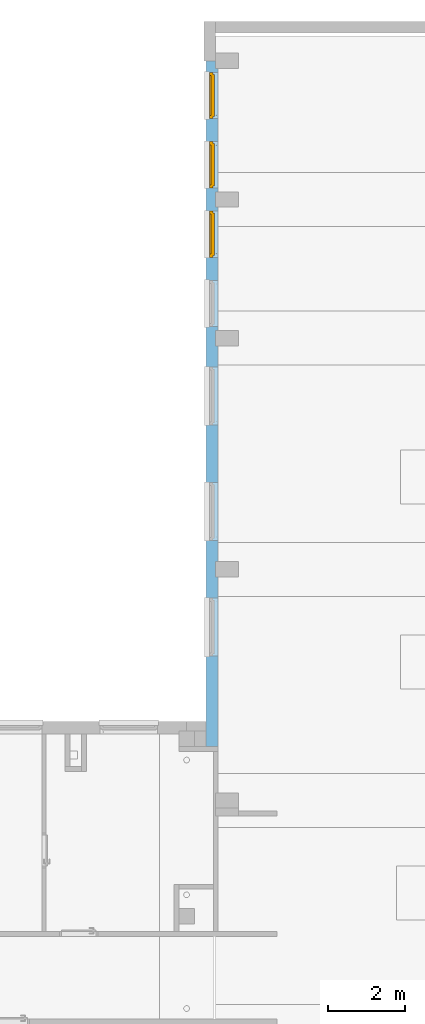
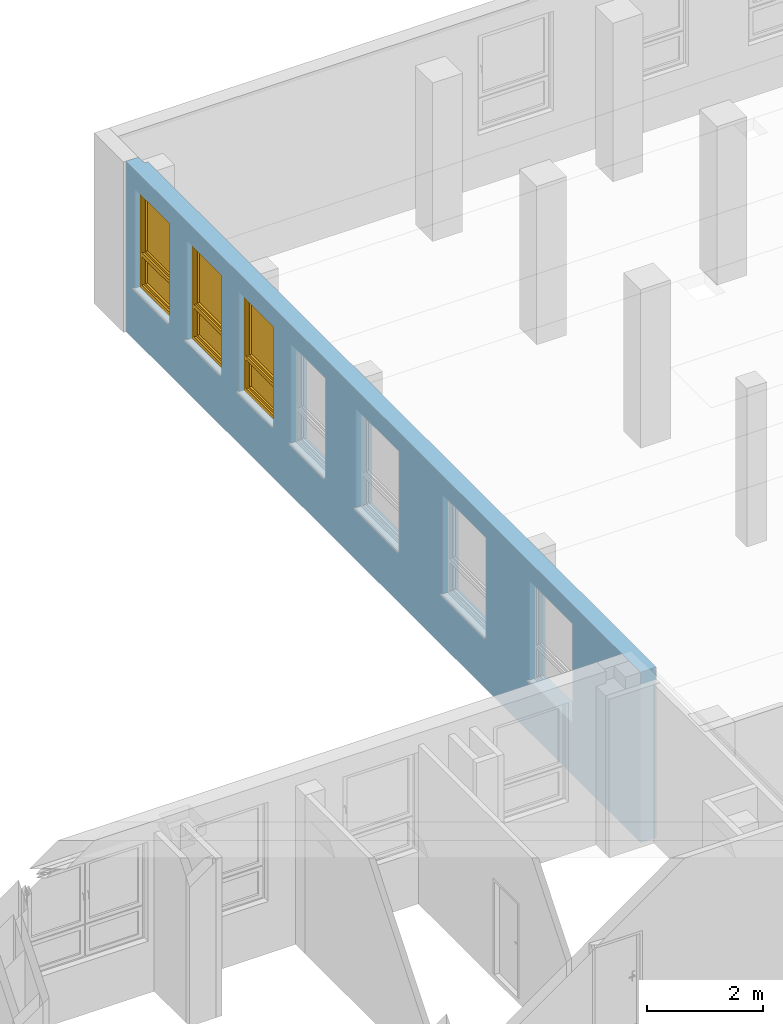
# One storey, part 27 of 50: 3 windows, 7 openings, plus 1 element that does not belong to this part.
"""IFC4 building model written with IfcOpenShell, lengths in metres."""

from ifc_helpers import new_model, entity, si_unit, converted_unit, derived_unit, frame, origin, origin_with_axes, place, context, subcontext, project, spatial, polyline, outline, extrude, clip, bounded_halfspace, closed_shell, open_shell, surface_model, source, transform, mapped, material, layer, layer_set, layer_usage, element, fill, save


model = new_model("IFC4")

# Units and contexts
model_context = context("Model", 3, precision=1e-05, world=origin())
body_context = subcontext(model_context, "Body", "Model", "MODEL_VIEW")
ifc_project = project(units=[si_unit("LENGTHUNIT", "METRE"), si_unit("AREAUNIT", "SQUARE_METRE"), si_unit("VOLUMEUNIT", "CUBIC_METRE"), si_unit("MASSUNIT", "GRAM", prefix="KILO"), converted_unit("PLANEANGLEUNIT", "DEGREE", entity("IfcPlaneAngleMeasure", 0.0174532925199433), si_unit("PLANEANGLEUNIT", "RADIAN"), dimensions=[0, 0, 0, 0, 0, 0, 0]), derived_unit("THERMALTRANSMITTANCEUNIT", [(si_unit("POWERUNIT", "WATT"), 1), (si_unit("THERMODYNAMICTEMPERATUREUNIT", "KELVIN"), -1), (si_unit("LENGTHUNIT", "METRE"), -2)]), derived_unit("VOLUMETRICFLOWRATEUNIT", [(si_unit("LENGTHUNIT", "METRE"), 3), (converted_unit("TIMEUNIT", "hour", entity("IfcTimeMeasure", 3600.0), si_unit("TIMEUNIT", "SECOND"), dimensions=[0, 0, 1, 0, 0, 0, 0]), -1), (si_unit("LENGTHUNIT", "METRE"), -1)])], contexts=[model_context])

# Site, building, storey
site_placement = place(None, origin())
site = spatial("IfcSite", under=ifc_project, at=site_placement, Name="3. ASŘ", CompositionType="ELEMENT")
building_placement = place(site_placement, origin())
building = spatial("IfcBuilding", under=site, at=building_placement, Name="Pavilon C", CompositionType="ELEMENT")
storey_placement = place(building_placement, frame((0.0, 0.0, 3.6)))
storey = spatial("IfcBuildingStorey", under=building, at=storey_placement, Name="Půdorys 2.NP", CompositionType="ELEMENT", Elevation=3.6)

# Wall, openings, windows
ifc_material = material(Name="ZELEZOBETONOVÁ KCE")
ifc_layer = layer(ifc_material, 0.32)
ifc_layer_set = layer_set([ifc_layer])
ifc_layer_usage = layer_usage(ifc_layer_set, "AXIS2", "POSITIVE", 0.0)
wall_placement = place(storey_placement, frame((24.5, 32.4, -0.1), z_axis=(0.0, 0.0, 1.0), x_axis=(-2.04380831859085e-16, -1.0, 0.0)))
wall = element("IfcWall", 1, at=wall_placement, inside=storey, material=ifc_layer_usage, Name="ZELEZOBETONOVÁ KCE", context=body_context, shape_type="Clipping", body=[
    clip(clip(clip(extrude(outline(polyline([(-17.8, 0.0), (0.0, 0.0), (-6.54018661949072e-17, 0.32), (-17.6, 0.32), (-17.6, 0.25), (-17.8, 0.25), (-17.8, 0.0)])), frame((17.8, 0.0, 0.0), z_axis=(0.0, 0.0, 1.0), x_axis=(1.0, 0.0, 0.0)), (0.0, 0.0, 1.0), 3.6), bounded_halfspace(frame((3.6, 0.285000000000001, 3.35), z_axis=(0.0, 0.0, 1.0), x_axis=(2.04380831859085e-16, -1.0, 0.0)), True, origin_with_axes(), polyline([(3.4, 0.320000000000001), (3.4, 0.250000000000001), (3.8, 0.250000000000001), (3.8, 0.320000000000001), (3.4, 0.320000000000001)]))), bounded_halfspace(frame((7.2, 0.285000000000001, 3.35), z_axis=(0.0, 0.0, 1.0), x_axis=(2.04380831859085e-16, -1.0, 0.0)), True, origin_with_axes(), polyline([(7.0, 0.320000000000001), (7.0, 0.250000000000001), (7.4, 0.250000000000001), (7.4, 0.320000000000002), (7.0, 0.320000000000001)]))), bounded_halfspace(frame((13.2, 0.285000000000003, 3.35), z_axis=(0.0, 0.0, 1.0), x_axis=(2.04380831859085e-16, -1.0, 0.0)), True, origin_with_axes(), polyline([(13.0, 0.320000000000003), (13.0, 0.250000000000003), (13.4, 0.250000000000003), (13.4, 0.320000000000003), (13.0, 0.320000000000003)]))),
])
opening_1_placement = place(wall_placement, frame((13.95, -7.86866202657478e-16, 1.1), z_axis=(0.0, 1.0, 0.0), x_axis=(0.0, 0.0, 1.0)))
element("IfcOpeningElement", 2, at=opening_1_placement, cuts=wall, Name="Okenní otvor", ObjectType="Opening", context=body_context, shape_type="SweptSolid", body=[
    extrude(outline(polyline([(0.0, 1.5), (2.1, 1.5), (2.1, 0.0), (0.0, 0.0), (0.0, 1.5)])), origin_with_axes(), (0.0, 0.0, 1.0), 0.32),
])
opening_2_placement = place(wall_placement, frame((10.95, -1.40000869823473e-15, 1.1), z_axis=(0.0, 1.0, 0.0), x_axis=(0.0, 0.0, 1.0)))
element("IfcOpeningElement", 3, at=opening_2_placement, cuts=wall, Name="Okenní otvor", ObjectType="Opening", context=body_context, shape_type="SweptSolid", body=[
    extrude(outline(polyline([(0.0, 1.5), (2.1, 1.5), (2.1, 0.0), (0.0, 0.0), (0.0, 1.5)])), origin_with_axes(), (0.0, 0.0, 1.0), 0.32),
])
opening_3_placement = place(wall_placement, frame((7.95, -2.01315119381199e-15, 1.1), z_axis=(0.0, 1.0, 0.0), x_axis=(0.0, 0.0, 1.0)))
element("IfcOpeningElement", 4, at=opening_3_placement, cuts=wall, Name="Okenní otvor", ObjectType="Opening", context=body_context, shape_type="SweptSolid", body=[
    extrude(outline(polyline([(0.0, 1.5), (2.1, 1.5), (2.1, 0.0), (0.0, 0.0), (0.0, 1.5)])), origin_with_axes(), (0.0, 0.0, 1.0), 0.320000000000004),
])
opening_4_placement = place(wall_placement, frame((5.7, 1.16497074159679e-15, 1.1), z_axis=(0.0, 1.0, 0.0), x_axis=(0.0, 0.0, 1.0)))
element("IfcOpeningElement", 5, at=opening_4_placement, cuts=wall, Name="Okenní otvor", ObjectType="Opening", context=body_context, shape_type="SweptSolid", body=[
    extrude(outline(polyline([(0.0, 1.2), (2.1, 1.2), (2.1, 0.0), (0.0, 0.0), (0.0, 1.2)])), origin_with_axes(), (0.0, 0.0, 1.0), 0.32),
])
opening_5_placement = place(wall_placement, frame((3.90000000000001, 7.97085244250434e-16, 1.1), z_axis=(0.0, 1.0, 0.0), x_axis=(0.0, 0.0, 1.0)))
opening_5 = element("IfcOpeningElement", 6, at=opening_5_placement, cuts=wall, Name="Okenní otvor", ObjectType="Opening", context=body_context, shape_type="SweptSolid", body=[
    extrude(outline(polyline([(0.0, 1.2), (2.1, 1.2), (2.1, 0.0), (0.0, 0.0), (0.0, 1.2)])), origin_with_axes(), (0.0, 0.0, 1.0), 0.32),
])
opening_6_placement = place(wall_placement, frame((2.10000000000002, 4.29199746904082e-16, 1.1), z_axis=(0.0, 1.0, 0.0), x_axis=(0.0, 0.0, 1.0)))
opening_6 = element("IfcOpeningElement", 7, at=opening_6_placement, cuts=wall, Name="Okenní otvor", ObjectType="Opening", context=body_context, shape_type="SweptSolid", body=[
    extrude(outline(polyline([(0.0, 1.2), (2.1, 1.2), (2.1, 0.0), (0.0, 0.0), (0.0, 1.2)])), origin_with_axes(), (0.0, 0.0, 1.0), 0.32),
])
opening_7_placement = place(wall_placement, frame((0.300000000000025, 6.13142495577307e-17, 1.1), z_axis=(-1.77635683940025e-16, 1.0, 0.0), x_axis=(0.0, 0.0, 1.0)))
opening_7 = element("IfcOpeningElement", 8, at=opening_7_placement, cuts=wall, Name="Okenní otvor", ObjectType="Opening", context=body_context, shape_type="SweptSolid", body=[
    extrude(outline(polyline([(0.0, 1.2), (2.1, 1.2), (2.1, 0.0), (0.0, 0.0), (0.0, 1.2)])), origin_with_axes(), (0.0, 0.0, 1.0), 0.32),
])
shared_shape_1 = source(origin_with_axes(), body_context, "Body", "SurfaceModel", [
    surface_model("IfcShellBasedSurfaceModel", [(0.0, 0.182, 2.1), (0.0, 0.182, -5.63337527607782e-18), (0.08, 0.182, -5.63337527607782e-18), (0.08, 0.182, 2.1), (0.0, 0.0899999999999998, 5.63337527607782e-18), (0.0, 0.0900000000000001, 2.1), (0.08, 0.0900000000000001, 2.1), (0.08, 0.0899999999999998, 5.63337527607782e-18)], [closed_shell([[[0, 1, 2, 3]], [[4, 5, 6, 7]], [[1, 0, 5, 4]], [[2, 1, 4, 7]], [[3, 2, 7, 6]], [[0, 3, 6, 5]]], orient=[[False], [False], [False], [False], [False], [False]])]),
    surface_model("IfcShellBasedSurfaceModel", [(1.12, 0.182, 2.1), (1.12, 0.182, -5.63337527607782e-18), (1.2, 0.182, -5.63337527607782e-18), (1.2, 0.182, 2.1), (1.12, 0.0899999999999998, 5.63337527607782e-18), (1.12, 0.0900000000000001, 2.1), (1.2, 0.0900000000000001, 2.1), (1.2, 0.0899999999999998, 5.63337527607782e-18)], [closed_shell([[[0, 1, 2, 3]], [[4, 5, 6, 7]], [[1, 0, 5, 4]], [[2, 1, 4, 7]], [[3, 2, 7, 6]], [[0, 3, 6, 5]]], orient=[[False], [False], [False], [False], [False], [False]])]),
    surface_model("IfcShellBasedSurfaceModel", [(0.08, 0.182, 0.08), (0.08, 0.182, -5.63337527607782e-18), (1.12, 0.182, -5.63337527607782e-18), (1.12, 0.182, 0.08), (0.08, 0.0899999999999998, 5.63337527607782e-18), (0.08, 0.0899999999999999, 0.08), (1.12, 0.0899999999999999, 0.08), (1.12, 0.0899999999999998, 5.63337527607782e-18)], [closed_shell([[[0, 1, 2, 3]], [[4, 5, 6, 7]], [[1, 0, 5, 4]], [[2, 1, 4, 7]], [[3, 2, 7, 6]], [[0, 3, 6, 5]]], orient=[[False], [False], [False], [False], [False], [False]])]),
    surface_model("IfcShellBasedSurfaceModel", [(0.08, 0.182, 2.1), (0.08, 0.182, 2.02), (1.12, 0.182, 2.02), (1.12, 0.182, 2.1), (0.08, 0.0900000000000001, 2.02), (0.08, 0.0900000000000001, 2.1), (1.12, 0.0900000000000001, 2.1), (1.12, 0.0900000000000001, 2.02)], [closed_shell([[[0, 1, 2, 3]], [[4, 5, 6, 7]], [[1, 0, 5, 4]], [[2, 1, 4, 7]], [[3, 2, 7, 6]], [[0, 3, 6, 5]]], orient=[[False], [False], [False], [False], [False], [False]])]),
    surface_model("IfcShellBasedSurfaceModel", [(0.08, 0.182, 0.76), (0.08, 0.182, 0.68), (1.12, 0.182, 0.68), (1.12, 0.182, 0.76), (0.08, 0.0899999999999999, 0.68), (0.08, 0.0899999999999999, 0.76), (1.12, 0.0899999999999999, 0.76), (1.12, 0.0899999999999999, 0.68)], [closed_shell([[[0, 1, 2, 3]], [[4, 5, 6, 7]], [[1, 0, 5, 4]], [[2, 1, 4, 7]], [[3, 2, 7, 6]], [[0, 3, 6, 5]]], orient=[[False], [False], [False], [False], [False], [False]])]),
    surface_model("IfcShellBasedSurfaceModel", [(0.05, 0.145, 0.71), (0.05, 0.145, 0.05), (0.13, 0.145, 0.05), (0.13, 0.145, 0.71), (0.05, 0.0599999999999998, 0.05), (0.05, 0.0599999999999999, 0.71), (0.13, 0.0599999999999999, 0.71), (0.13, 0.0599999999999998, 0.05)], [closed_shell([[[0, 1, 2, 3]], [[4, 5, 6, 7]], [[1, 0, 5, 4]], [[2, 1, 4, 7]], [[3, 2, 7, 6]], [[0, 3, 6, 5]]], orient=[[False], [False], [False], [False], [False], [False]])]),
    surface_model("IfcShellBasedSurfaceModel", [(1.07, 0.145, 0.71), (1.07, 0.145, 0.05), (1.15, 0.145, 0.05), (1.15, 0.145, 0.71), (1.07, 0.0599999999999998, 0.05), (1.07, 0.0599999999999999, 0.71), (1.15, 0.0599999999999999, 0.71), (1.15, 0.0599999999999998, 0.05)], [closed_shell([[[0, 1, 2, 3]], [[4, 5, 6, 7]], [[1, 0, 5, 4]], [[2, 1, 4, 7]], [[3, 2, 7, 6]], [[0, 3, 6, 5]]], orient=[[False], [False], [False], [False], [False], [False]])]),
    surface_model("IfcShellBasedSurfaceModel", [(0.13, 0.145, 0.13), (0.13, 0.145, 0.05), (1.07, 0.145, 0.05), (1.07, 0.145, 0.13), (0.13, 0.0599999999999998, 0.05), (0.13, 0.0599999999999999, 0.13), (1.07, 0.0599999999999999, 0.13), (1.07, 0.0599999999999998, 0.05)], [closed_shell([[[0, 1, 2, 3]], [[4, 5, 6, 7]], [[1, 0, 5, 4]], [[2, 1, 4, 7]], [[3, 2, 7, 6]], [[0, 3, 6, 5]]], orient=[[False], [False], [False], [False], [False], [False]])]),
    surface_model("IfcShellBasedSurfaceModel", [(0.13, 0.145, 0.71), (0.13, 0.145, 0.63), (1.07, 0.145, 0.63), (1.07, 0.145, 0.71), (0.13, 0.0599999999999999, 0.63), (0.13, 0.0599999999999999, 0.71), (1.07, 0.0599999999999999, 0.71), (1.07, 0.0599999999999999, 0.63)], [closed_shell([[[0, 1, 2, 3]], [[4, 5, 6, 7]], [[1, 0, 5, 4]], [[2, 1, 4, 7]], [[3, 2, 7, 6]], [[0, 3, 6, 5]]], orient=[[False], [False], [False], [False], [False], [False]])]),
    surface_model("IfcShellBasedSurfaceModel", [(0.05, 0.145, 2.05), (0.05, 0.145, 0.73), (0.13, 0.145, 0.73), (0.13, 0.145, 2.05), (0.05, 0.0599999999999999, 0.73), (0.05, 0.0600000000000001, 2.05), (0.13, 0.0600000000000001, 2.05), (0.13, 0.0599999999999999, 0.73)], [closed_shell([[[0, 1, 2, 3]], [[4, 5, 6, 7]], [[1, 0, 5, 4]], [[2, 1, 4, 7]], [[3, 2, 7, 6]], [[0, 3, 6, 5]]], orient=[[False], [False], [False], [False], [False], [False]])]),
    surface_model("IfcShellBasedSurfaceModel", [(1.07, 0.145, 2.05), (1.07, 0.145, 0.73), (1.15, 0.145, 0.73), (1.15, 0.145, 2.05), (1.07, 0.0599999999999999, 0.73), (1.07, 0.0600000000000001, 2.05), (1.15, 0.0600000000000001, 2.05), (1.15, 0.0599999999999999, 0.73)], [closed_shell([[[0, 1, 2, 3]], [[4, 5, 6, 7]], [[1, 0, 5, 4]], [[2, 1, 4, 7]], [[3, 2, 7, 6]], [[0, 3, 6, 5]]], orient=[[False], [False], [False], [False], [False], [False]])]),
    surface_model("IfcShellBasedSurfaceModel", [(0.13, 0.145, 0.81), (0.13, 0.145, 0.73), (1.07, 0.145, 0.73), (1.07, 0.145, 0.81), (0.13, 0.0599999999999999, 0.73), (0.13, 0.0599999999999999, 0.81), (1.07, 0.0599999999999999, 0.81), (1.07, 0.0599999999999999, 0.73)], [closed_shell([[[0, 1, 2, 3]], [[4, 5, 6, 7]], [[1, 0, 5, 4]], [[2, 1, 4, 7]], [[3, 2, 7, 6]], [[0, 3, 6, 5]]], orient=[[False], [False], [False], [False], [False], [False]])]),
    surface_model("IfcShellBasedSurfaceModel", [(0.13, 0.145, 2.05), (0.13, 0.145, 1.97), (1.07, 0.145, 1.97), (1.07, 0.145, 2.05), (0.13, 0.0600000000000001, 1.97), (0.13, 0.0600000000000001, 2.05), (1.07, 0.0600000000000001, 2.05), (1.07, 0.0600000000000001, 1.97)], [closed_shell([[[0, 1, 2, 3]], [[4, 5, 6, 7]], [[1, 0, 5, 4]], [[2, 1, 4, 7]], [[3, 2, 7, 6]], [[0, 3, 6, 5]]], orient=[[False], [False], [False], [False], [False], [False]])]),
    surface_model("IfcShellBasedSurfaceModel", [(0.0775, 0.06, 1.41), (0.0775, 0.06, 1.37), (0.1025, 0.06, 1.37), (0.1025, 0.06, 1.41), (0.0775, 0.05, 1.37), (0.0775, 0.05, 1.41), (0.1025, 0.05, 1.41), (0.1025, 0.05, 1.37)], [closed_shell([[[0, 1, 2, 3]], [[4, 5, 6, 7]], [[1, 0, 5, 4]], [[2, 1, 4, 7]], [[3, 2, 7, 6]], [[0, 3, 6, 5]]], orient=[[False], [False], [False], [False], [False], [False]])]),
    surface_model("IfcShellBasedSurfaceModel", [(0.1, 0.05, 1.39), (0.0986602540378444, 0.05, 1.395), (0.095, 0.05, 1.39866025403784), (0.09, 0.05, 1.4), (0.085, 0.05, 1.39866025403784), (0.0813397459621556, 0.05, 1.395), (0.08, 0.05, 1.39), (0.0813397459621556, 0.05, 1.385), (0.085, 0.05, 1.38133974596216), (0.09, 0.05, 1.38), (0.095, 0.05, 1.38133974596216), (0.0986602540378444, 0.05, 1.385), (0.1, 0.01, 1.39), (0.0986602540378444, 0.00500000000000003, 1.395), (0.095, 0.00133974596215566, 1.39866025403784), (0.09, 2.8421709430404e-17, 1.4), (0.085, 0.00133974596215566, 1.39866025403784), (0.0813397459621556, 0.00500000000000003, 1.395), (0.08, 0.01, 1.39), (0.0813397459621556, 0.015, 1.385), (0.085, 0.0186602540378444, 1.38133974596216), (0.09, 0.02, 1.38), (0.095, 0.0186602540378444, 1.38133974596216), (0.0986602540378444, 0.015, 1.385), (0.1, 0.01, 1.275), (0.0986602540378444, 0.005, 1.275), (0.095, 0.00133974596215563, 1.275), (0.09, 0.0, 1.275), (0.085, 0.00133974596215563, 1.275), (0.0813397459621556, 0.005, 1.275), (0.08, 0.01, 1.275), (0.0813397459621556, 0.015, 1.275), (0.085, 0.0186602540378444, 1.275), (0.09, 0.02, 1.275), (0.095, 0.0186602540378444, 1.275), (0.0986602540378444, 0.015, 1.275)], [open_shell([[[0, 1, 2, 3, 4, 5, 6, 7, 8, 9, 10, 11]], [[0, 12, 13, 1]], [[1, 13, 14, 2]], [[2, 14, 15, 3]], [[3, 15, 16, 4]], [[4, 16, 17, 5]], [[5, 17, 18, 6]], [[6, 18, 19, 7]], [[7, 19, 20, 8]], [[8, 20, 21, 9]], [[9, 21, 22, 10]], [[10, 22, 23, 11]], [[11, 23, 12, 0]], [[12, 24, 25, 13]], [[13, 25, 26, 14]], [[14, 26, 27, 15]], [[15, 27, 28, 16]], [[16, 28, 29, 17]], [[17, 29, 30, 18]], [[18, 30, 31, 19]], [[19, 31, 32, 20]], [[20, 32, 33, 21]], [[21, 33, 34, 22]], [[22, 34, 35, 23]], [[23, 35, 24, 12]]], orient=[[False], [False], [False], [False], [False], [False], [False], [False], [False], [False], [False], [False], [False], [False], [False], [False], [False], [False], [False], [False], [False], [False], [False], [False], [False]])]),
    surface_model("IfcShellBasedSurfaceModel", [(0.13, 0.1025, 0.13), (1.07, 0.1025, 0.13), (1.07, 0.1025, 0.63), (0.13, 0.1025, 0.63)], [open_shell([[[0, 1, 2, 3]]], orient=[[False]])]),
    surface_model("IfcShellBasedSurfaceModel", [(0.13, 0.1025, 0.81), (1.07, 0.1025, 0.81), (1.07, 0.1025, 1.97), (0.13, 0.1025, 1.97)], [open_shell([[[0, 1, 2, 3]]], orient=[[False]])]),
])
window_1_placement = place(opening_6_placement, frame((0.0, 7.27595761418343e-15, 0.281999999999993), z_axis=(1.0, 0.0, 0.0), x_axis=(0.0, 1.0, 8.19161519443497e-17)))
window_1 = element("IfcWindow", 9, at=window_1_placement, inside=storey, Name="O06", OverallHeight=2.1, OverallWidth=1.2, PartitioningType="USERDEFINED", PredefinedType="WINDOW", context=body_context, shape_type="MappedRepresentation", body=[
    mapped(shared_shape_1, transform((0.0, 0.0, 0.0), x_axis=(1.0, 0.0, 0.0), y_axis=(0.0, -1.0, 0.0), z_axis=(0.0, 0.0, 1.0), scale=1.0)),
])
fill(opening_6, window_1)
shared_shape_2 = source(origin_with_axes(), body_context, "Body", "SurfaceModel", [
    surface_model("IfcShellBasedSurfaceModel", [(0.0, 0.182, 2.1), (0.0, 0.182, -5.63337527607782e-18), (0.08, 0.182, -5.63337527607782e-18), (0.08, 0.182, 2.1), (0.0, 0.0899999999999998, 5.63337527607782e-18), (0.0, 0.0900000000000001, 2.1), (0.08, 0.0900000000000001, 2.1), (0.08, 0.0899999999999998, 5.63337527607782e-18)], [closed_shell([[[0, 1, 2, 3]], [[4, 5, 6, 7]], [[1, 0, 5, 4]], [[2, 1, 4, 7]], [[3, 2, 7, 6]], [[0, 3, 6, 5]]], orient=[[False], [False], [False], [False], [False], [False]])]),
    surface_model("IfcShellBasedSurfaceModel", [(1.12, 0.182, 2.1), (1.12, 0.182, -5.63337527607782e-18), (1.2, 0.182, -5.63337527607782e-18), (1.2, 0.182, 2.1), (1.12, 0.0899999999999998, 5.63337527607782e-18), (1.12, 0.0900000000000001, 2.1), (1.2, 0.0900000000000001, 2.1), (1.2, 0.0899999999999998, 5.63337527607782e-18)], [closed_shell([[[0, 1, 2, 3]], [[4, 5, 6, 7]], [[1, 0, 5, 4]], [[2, 1, 4, 7]], [[3, 2, 7, 6]], [[0, 3, 6, 5]]], orient=[[False], [False], [False], [False], [False], [False]])]),
    surface_model("IfcShellBasedSurfaceModel", [(0.08, 0.182, 0.08), (0.08, 0.182, -5.63337527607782e-18), (1.12, 0.182, -5.63337527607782e-18), (1.12, 0.182, 0.08), (0.08, 0.0899999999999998, 5.63337527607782e-18), (0.08, 0.0899999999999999, 0.08), (1.12, 0.0899999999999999, 0.08), (1.12, 0.0899999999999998, 5.63337527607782e-18)], [closed_shell([[[0, 1, 2, 3]], [[4, 5, 6, 7]], [[1, 0, 5, 4]], [[2, 1, 4, 7]], [[3, 2, 7, 6]], [[0, 3, 6, 5]]], orient=[[False], [False], [False], [False], [False], [False]])]),
    surface_model("IfcShellBasedSurfaceModel", [(0.08, 0.182, 2.1), (0.08, 0.182, 2.02), (1.12, 0.182, 2.02), (1.12, 0.182, 2.1), (0.08, 0.0900000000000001, 2.02), (0.08, 0.0900000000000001, 2.1), (1.12, 0.0900000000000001, 2.1), (1.12, 0.0900000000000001, 2.02)], [closed_shell([[[0, 1, 2, 3]], [[4, 5, 6, 7]], [[1, 0, 5, 4]], [[2, 1, 4, 7]], [[3, 2, 7, 6]], [[0, 3, 6, 5]]], orient=[[False], [False], [False], [False], [False], [False]])]),
    surface_model("IfcShellBasedSurfaceModel", [(0.08, 0.182, 0.76), (0.08, 0.182, 0.68), (1.12, 0.182, 0.68), (1.12, 0.182, 0.76), (0.08, 0.0899999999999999, 0.68), (0.08, 0.0899999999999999, 0.76), (1.12, 0.0899999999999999, 0.76), (1.12, 0.0899999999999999, 0.68)], [closed_shell([[[0, 1, 2, 3]], [[4, 5, 6, 7]], [[1, 0, 5, 4]], [[2, 1, 4, 7]], [[3, 2, 7, 6]], [[0, 3, 6, 5]]], orient=[[False], [False], [False], [False], [False], [False]])]),
    surface_model("IfcShellBasedSurfaceModel", [(0.05, 0.145, 0.71), (0.05, 0.145, 0.05), (0.13, 0.145, 0.05), (0.13, 0.145, 0.71), (0.05, 0.0599999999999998, 0.05), (0.05, 0.0599999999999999, 0.71), (0.13, 0.0599999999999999, 0.71), (0.13, 0.0599999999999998, 0.05)], [closed_shell([[[0, 1, 2, 3]], [[4, 5, 6, 7]], [[1, 0, 5, 4]], [[2, 1, 4, 7]], [[3, 2, 7, 6]], [[0, 3, 6, 5]]], orient=[[False], [False], [False], [False], [False], [False]])]),
    surface_model("IfcShellBasedSurfaceModel", [(1.07, 0.145, 0.71), (1.07, 0.145, 0.05), (1.15, 0.145, 0.05), (1.15, 0.145, 0.71), (1.07, 0.0599999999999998, 0.05), (1.07, 0.0599999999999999, 0.71), (1.15, 0.0599999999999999, 0.71), (1.15, 0.0599999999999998, 0.05)], [closed_shell([[[0, 1, 2, 3]], [[4, 5, 6, 7]], [[1, 0, 5, 4]], [[2, 1, 4, 7]], [[3, 2, 7, 6]], [[0, 3, 6, 5]]], orient=[[False], [False], [False], [False], [False], [False]])]),
    surface_model("IfcShellBasedSurfaceModel", [(0.13, 0.145, 0.13), (0.13, 0.145, 0.05), (1.07, 0.145, 0.05), (1.07, 0.145, 0.13), (0.13, 0.0599999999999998, 0.05), (0.13, 0.0599999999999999, 0.13), (1.07, 0.0599999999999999, 0.13), (1.07, 0.0599999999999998, 0.05)], [closed_shell([[[0, 1, 2, 3]], [[4, 5, 6, 7]], [[1, 0, 5, 4]], [[2, 1, 4, 7]], [[3, 2, 7, 6]], [[0, 3, 6, 5]]], orient=[[False], [False], [False], [False], [False], [False]])]),
    surface_model("IfcShellBasedSurfaceModel", [(0.13, 0.145, 0.71), (0.13, 0.145, 0.63), (1.07, 0.145, 0.63), (1.07, 0.145, 0.71), (0.13, 0.0599999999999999, 0.63), (0.13, 0.0599999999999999, 0.71), (1.07, 0.0599999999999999, 0.71), (1.07, 0.0599999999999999, 0.63)], [closed_shell([[[0, 1, 2, 3]], [[4, 5, 6, 7]], [[1, 0, 5, 4]], [[2, 1, 4, 7]], [[3, 2, 7, 6]], [[0, 3, 6, 5]]], orient=[[False], [False], [False], [False], [False], [False]])]),
    surface_model("IfcShellBasedSurfaceModel", [(0.05, 0.145, 2.05), (0.05, 0.145, 0.73), (0.13, 0.145, 0.73), (0.13, 0.145, 2.05), (0.05, 0.0599999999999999, 0.73), (0.05, 0.0600000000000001, 2.05), (0.13, 0.0600000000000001, 2.05), (0.13, 0.0599999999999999, 0.73)], [closed_shell([[[0, 1, 2, 3]], [[4, 5, 6, 7]], [[1, 0, 5, 4]], [[2, 1, 4, 7]], [[3, 2, 7, 6]], [[0, 3, 6, 5]]], orient=[[False], [False], [False], [False], [False], [False]])]),
    surface_model("IfcShellBasedSurfaceModel", [(1.07, 0.145, 2.05), (1.07, 0.145, 0.73), (1.15, 0.145, 0.73), (1.15, 0.145, 2.05), (1.07, 0.0599999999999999, 0.73), (1.07, 0.0600000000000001, 2.05), (1.15, 0.0600000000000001, 2.05), (1.15, 0.0599999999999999, 0.73)], [closed_shell([[[0, 1, 2, 3]], [[4, 5, 6, 7]], [[1, 0, 5, 4]], [[2, 1, 4, 7]], [[3, 2, 7, 6]], [[0, 3, 6, 5]]], orient=[[False], [False], [False], [False], [False], [False]])]),
    surface_model("IfcShellBasedSurfaceModel", [(0.13, 0.145, 0.81), (0.13, 0.145, 0.73), (1.07, 0.145, 0.73), (1.07, 0.145, 0.81), (0.13, 0.0599999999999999, 0.73), (0.13, 0.0599999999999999, 0.81), (1.07, 0.0599999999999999, 0.81), (1.07, 0.0599999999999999, 0.73)], [closed_shell([[[0, 1, 2, 3]], [[4, 5, 6, 7]], [[1, 0, 5, 4]], [[2, 1, 4, 7]], [[3, 2, 7, 6]], [[0, 3, 6, 5]]], orient=[[False], [False], [False], [False], [False], [False]])]),
    surface_model("IfcShellBasedSurfaceModel", [(0.13, 0.145, 2.05), (0.13, 0.145, 1.97), (1.07, 0.145, 1.97), (1.07, 0.145, 2.05), (0.13, 0.0600000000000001, 1.97), (0.13, 0.0600000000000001, 2.05), (1.07, 0.0600000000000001, 2.05), (1.07, 0.0600000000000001, 1.97)], [closed_shell([[[0, 1, 2, 3]], [[4, 5, 6, 7]], [[1, 0, 5, 4]], [[2, 1, 4, 7]], [[3, 2, 7, 6]], [[0, 3, 6, 5]]], orient=[[False], [False], [False], [False], [False], [False]])]),
    surface_model("IfcShellBasedSurfaceModel", [(0.0775, 0.06, 1.41), (0.0775, 0.06, 1.37), (0.1025, 0.06, 1.37), (0.1025, 0.06, 1.41), (0.0775, 0.05, 1.37), (0.0775, 0.05, 1.41), (0.1025, 0.05, 1.41), (0.1025, 0.05, 1.37)], [closed_shell([[[0, 1, 2, 3]], [[4, 5, 6, 7]], [[1, 0, 5, 4]], [[2, 1, 4, 7]], [[3, 2, 7, 6]], [[0, 3, 6, 5]]], orient=[[False], [False], [False], [False], [False], [False]])]),
    surface_model("IfcShellBasedSurfaceModel", [(0.1, 0.05, 1.39), (0.0986602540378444, 0.05, 1.395), (0.095, 0.05, 1.39866025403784), (0.09, 0.05, 1.4), (0.085, 0.05, 1.39866025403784), (0.0813397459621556, 0.05, 1.395), (0.08, 0.05, 1.39), (0.0813397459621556, 0.05, 1.385), (0.085, 0.05, 1.38133974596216), (0.09, 0.05, 1.38), (0.095, 0.05, 1.38133974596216), (0.0986602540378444, 0.05, 1.385), (0.1, 0.01, 1.39), (0.0986602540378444, 0.00500000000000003, 1.395), (0.095, 0.00133974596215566, 1.39866025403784), (0.09, 2.8421709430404e-17, 1.4), (0.085, 0.00133974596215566, 1.39866025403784), (0.0813397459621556, 0.00500000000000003, 1.395), (0.08, 0.01, 1.39), (0.0813397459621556, 0.015, 1.385), (0.085, 0.0186602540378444, 1.38133974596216), (0.09, 0.02, 1.38), (0.095, 0.0186602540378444, 1.38133974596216), (0.0986602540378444, 0.015, 1.385), (0.1, 0.01, 1.275), (0.0986602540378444, 0.005, 1.275), (0.095, 0.00133974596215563, 1.275), (0.09, 0.0, 1.275), (0.085, 0.00133974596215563, 1.275), (0.0813397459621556, 0.005, 1.275), (0.08, 0.01, 1.275), (0.0813397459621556, 0.015, 1.275), (0.085, 0.0186602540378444, 1.275), (0.09, 0.02, 1.275), (0.095, 0.0186602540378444, 1.275), (0.0986602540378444, 0.015, 1.275)], [open_shell([[[0, 1, 2, 3, 4, 5, 6, 7, 8, 9, 10, 11]], [[0, 12, 13, 1]], [[1, 13, 14, 2]], [[2, 14, 15, 3]], [[3, 15, 16, 4]], [[4, 16, 17, 5]], [[5, 17, 18, 6]], [[6, 18, 19, 7]], [[7, 19, 20, 8]], [[8, 20, 21, 9]], [[9, 21, 22, 10]], [[10, 22, 23, 11]], [[11, 23, 12, 0]], [[12, 24, 25, 13]], [[13, 25, 26, 14]], [[14, 26, 27, 15]], [[15, 27, 28, 16]], [[16, 28, 29, 17]], [[17, 29, 30, 18]], [[18, 30, 31, 19]], [[19, 31, 32, 20]], [[20, 32, 33, 21]], [[21, 33, 34, 22]], [[22, 34, 35, 23]], [[23, 35, 24, 12]]], orient=[[False], [False], [False], [False], [False], [False], [False], [False], [False], [False], [False], [False], [False], [False], [False], [False], [False], [False], [False], [False], [False], [False], [False], [False], [False]])]),
    surface_model("IfcShellBasedSurfaceModel", [(0.13, 0.1025, 0.13), (1.07, 0.1025, 0.13), (1.07, 0.1025, 0.63), (0.13, 0.1025, 0.63)], [open_shell([[[0, 1, 2, 3]]], orient=[[False]])]),
    surface_model("IfcShellBasedSurfaceModel", [(0.13, 0.1025, 0.81), (1.07, 0.1025, 0.81), (1.07, 0.1025, 1.97), (0.13, 0.1025, 1.97)], [open_shell([[[0, 1, 2, 3]]], orient=[[False]])]),
])
window_2_placement = place(opening_5_placement, frame((0.0, 1.20000000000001, 0.281999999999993), z_axis=(1.0, 0.0, 0.0), x_axis=(0.0, -1.0, -8.19161519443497e-17)))
window_2 = element("IfcWindow", 10, at=window_2_placement, inside=storey, Name="O06", OverallHeight=2.1, OverallWidth=1.2, PartitioningType="USERDEFINED", PredefinedType="WINDOW", context=body_context, shape_type="MappedRepresentation", body=[
    mapped(shared_shape_2, transform((0.0, 0.0, 0.0), x_axis=(1.0, 0.0, 0.0), y_axis=(0.0, 1.0, 0.0), z_axis=(0.0, 0.0, 1.0), scale=1.0)),
])
fill(opening_5, window_2)
window_3_placement = place(opening_7_placement, frame((0.0, 1.20000000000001, 0.281999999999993), z_axis=(1.0, 0.0, 0.0), x_axis=(0.0, -1.0, 9.57195319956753e-17)))
window_3 = element("IfcWindow", 11, at=window_3_placement, inside=storey, Name="O06", OverallHeight=2.1, OverallWidth=1.2, PartitioningType="USERDEFINED", PredefinedType="WINDOW", context=body_context, shape_type="MappedRepresentation", body=[
    mapped(shared_shape_2, transform((0.0, 0.0, 0.0), x_axis=(1.0, 0.0, 0.0), y_axis=(0.0, 1.0, 0.0), z_axis=(0.0, 0.0, 1.0), scale=1.0)),
])
fill(opening_7, window_3)

save(model, "model.ifc")
